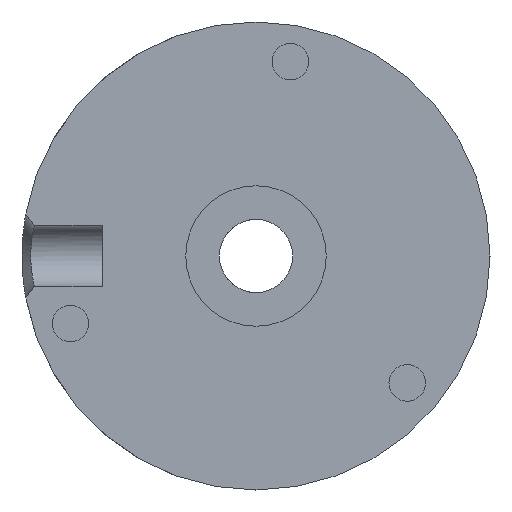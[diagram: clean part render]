
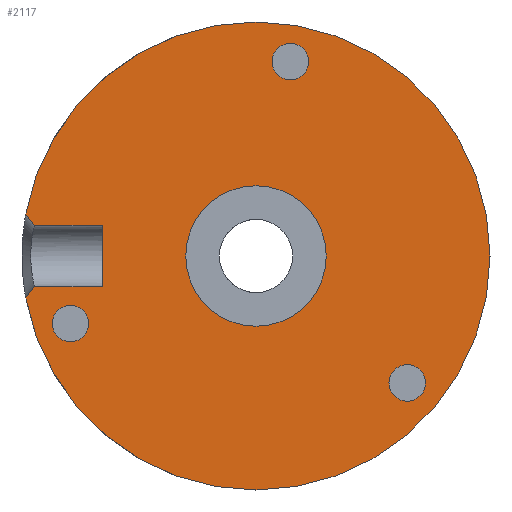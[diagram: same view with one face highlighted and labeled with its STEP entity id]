
A CAD part, left-side view. The second image highlights one B-rep face of the part: STEP entity #2117.
In plain terms, the highlighted planar face has unit normal (-1, 0, 0).
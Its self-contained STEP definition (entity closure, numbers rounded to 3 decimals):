
#13 = AXIS2_PLACEMENT_3D ( 'NONE', #1027, #643, #2388 ) ;
#24 = ORIENTED_EDGE ( 'NONE', *, *, #43, .T. ) ;
#29 = CIRCLE ( 'NONE', #13, 1.25 ) ;
#43 = EDGE_CURVE ( 'NONE', #803, #1495, #1074, .T. ) ;
#57 = CIRCLE ( 'NONE', #1278, 1.25 ) ;
#64 = DIRECTION ( 'NONE',  ( 0., 0., 1. ) ) ;
#71 = DIRECTION ( 'NONE',  ( 0., 0.608, -0.794 ) ) ;
#74 = CARTESIAN_POINT ( 'NONE',  ( 0., 0., -16. ) ) ;
#109 = DIRECTION ( 'NONE',  ( 0., 0., 1. ) ) ;
#122 = VERTEX_POINT ( 'NONE', #2407 ) ;
#132 = EDGE_CURVE ( 'NONE', #313, #1316, #2228, .T. ) ;
#142 = EDGE_CURVE ( 'NONE', #2142, #2030, #1835, .T. ) ;
#146 = AXIS2_PLACEMENT_3D ( 'NONE', #1267, #1298, #1366 ) ;
#149 = DIRECTION ( 'NONE',  ( -1., 0., 0. ) ) ;
#151 = VECTOR ( 'NONE', #1590, 1000. ) ;
#194 = EDGE_CURVE ( 'NONE', #2030, #2142, #2445, .T. ) ;
#214 = DIRECTION ( 'NONE',  ( 0., 0., 1. ) ) ;
#219 = VECTOR ( 'NONE', #232, 1000. ) ;
#220 = ORIENTED_EDGE ( 'NONE', *, *, #2462, .F. ) ;
#232 = DIRECTION ( 'NONE',  ( 0., 1., 0. ) ) ;
#263 = CARTESIAN_POINT ( 'NONE',  ( 0., -10.342, -8.678 ) ) ;
#266 = CARTESIAN_POINT ( 'NONE',  ( 0., 0., 4.8 ) ) ;
#279 = DIRECTION ( 'NONE',  ( 0., 0., 1. ) ) ;
#281 = DIRECTION ( 'NONE',  ( 0., 0., 1. ) ) ;
#313 = VERTEX_POINT ( 'NONE', #2363 ) ;
#321 = ORIENTED_EDGE ( 'NONE', *, *, #142, .F. ) ;
#342 = VERTEX_POINT ( 'NONE', #74 ) ;
#349 = AXIS2_PLACEMENT_3D ( 'NONE', #1221, #1598, #109 ) ;
#354 = EDGE_CURVE ( 'NONE', #1878, #997, #639, .T. ) ;
#361 = AXIS2_PLACEMENT_3D ( 'NONE', #446, #1435, #281 ) ;
#367 = CARTESIAN_POINT ( 'NONE',  ( 0., -10.342, -8.678 ) ) ;
#406 = CARTESIAN_POINT ( 'NONE',  ( 0., 12.686, -4.617 ) ) ;
#419 = VERTEX_POINT ( 'NONE', #2509 ) ;
#436 = VERTEX_POINT ( 'NONE', #1408 ) ;
#446 = CARTESIAN_POINT ( 'NONE',  ( 0., 0., 0. ) ) ;
#458 = AXIS2_PLACEMENT_3D ( 'NONE', #263, #1415, #64 ) ;
#482 = DIRECTION ( 'NONE',  ( 0., 0., 1. ) ) ;
#485 = LINE ( 'NONE', #659, #2470 ) ;
#510 = FACE_BOUND ( 'NONE', #1347, .T. ) ;
#548 = DIRECTION ( 'NONE',  ( 0., 0., 1. ) ) ;
#554 = EDGE_LOOP ( 'NONE', ( #2186, #1399 ) ) ;
#564 = FACE_BOUND ( 'NONE', #809, .T. ) ;
#620 = VERTEX_POINT ( 'NONE', #2447 ) ;
#639 = CIRCLE ( 'NONE', #1510, 1.25 ) ;
#643 = DIRECTION ( 'NONE',  ( -1., 0., 0. ) ) ;
#659 = CARTESIAN_POINT ( 'NONE',  ( 0., 10.5, 2.1 ) ) ;
#670 = EDGE_LOOP ( 'NONE', ( #2250, #2499 ) ) ;
#696 = CARTESIAN_POINT ( 'NONE',  ( 0., 0., 0. ) ) ;
#721 = AXIS2_PLACEMENT_3D ( 'NONE', #1607, #149, #1303 ) ;
#727 = EDGE_CURVE ( 'NONE', #2476, #122, #57, .T. ) ;
#736 = DIRECTION ( 'NONE',  ( 0., 0., 1. ) ) ;
#765 = VECTOR ( 'NONE', #1312, 1000. ) ;
#768 = FACE_BOUND ( 'NONE', #554, .T. ) ;
#773 = CIRCLE ( 'NONE', #1974, 16. ) ;
#782 = CARTESIAN_POINT ( 'NONE',  ( 0., 0., 16. ) ) ;
#803 = VERTEX_POINT ( 'NONE', #2373 ) ;
#808 = EDGE_CURVE ( 'NONE', #419, #1495, #1107, .T. ) ;
#809 = EDGE_LOOP ( 'NONE', ( #321, #1426 ) ) ;
#827 = VERTEX_POINT ( 'NONE', #853 ) ;
#843 = PLANE ( 'NONE',  #1134 ) ;
#853 = CARTESIAN_POINT ( 'NONE',  ( 0., 12.686, -3.367 ) ) ;
#917 = CIRCLE ( 'NONE', #458, 1.25 ) ;
#970 = DIRECTION ( 'NONE',  ( -1., 0., 0. ) ) ;
#996 = CARTESIAN_POINT ( 'NONE',  ( 0., 10.5, 2.1 ) ) ;
#997 = VERTEX_POINT ( 'NONE', #2047 ) ;
#1027 = CARTESIAN_POINT ( 'NONE',  ( 0., -2.344, 13.295 ) ) ;
#1040 = EDGE_CURVE ( 'NONE', #122, #2476, #917, .T. ) ;
#1074 = LINE ( 'NONE', #1184, #765 ) ;
#1085 = FACE_BOUND ( 'NONE', #670, .T. ) ;
#1100 = CARTESIAN_POINT ( 'NONE',  ( 0., 15.149, -2.1 ) ) ;
#1107 = LINE ( 'NONE', #996, #151 ) ;
#1132 = CIRCLE ( 'NONE', #146, 16. ) ;
#1134 = AXIS2_PLACEMENT_3D ( 'NONE', #1628, #2020, #279 ) ;
#1156 = CARTESIAN_POINT ( 'NONE',  ( 0., 12.686, -4.617 ) ) ;
#1184 = CARTESIAN_POINT ( 'NONE',  ( 0., 6.756, -8.854 ) ) ;
#1197 = EDGE_LOOP ( 'NONE', ( #1596, #1834, #2189, #24, #1237, #1609, #2105, #1944 ) ) ;
#1221 = CARTESIAN_POINT ( 'NONE',  ( 0., 0., 0. ) ) ;
#1229 = CARTESIAN_POINT ( 'NONE',  ( 0., 6.756, 8.854 ) ) ;
#1237 = ORIENTED_EDGE ( 'NONE', *, *, #808, .F. ) ;
#1267 = CARTESIAN_POINT ( 'NONE',  ( 0., 0., 0. ) ) ;
#1278 = AXIS2_PLACEMENT_3D ( 'NONE', #367, #1723, #548 ) ;
#1298 = DIRECTION ( 'NONE',  ( -1., 0., 0. ) ) ;
#1303 = DIRECTION ( 'NONE',  ( 0., 0., 1. ) ) ;
#1312 = DIRECTION ( 'NONE',  ( 0., -0.608, -0.794 ) ) ;
#1316 = VERTEX_POINT ( 'NONE', #1100 ) ;
#1347 = EDGE_LOOP ( 'NONE', ( #2517, #220 ) ) ;
#1349 = EDGE_CURVE ( 'NONE', #620, #342, #773, .T. ) ;
#1366 = DIRECTION ( 'NONE',  ( 0., 0., 1. ) ) ;
#1399 = ORIENTED_EDGE ( 'NONE', *, *, #2178, .F. ) ;
#1408 = CARTESIAN_POINT ( 'NONE',  ( 0., 12.686, -5.867 ) ) ;
#1415 = DIRECTION ( 'NONE',  ( -1., 0., 0. ) ) ;
#1426 = ORIENTED_EDGE ( 'NONE', *, *, #194, .F. ) ;
#1435 = DIRECTION ( 'NONE',  ( -1., 0., 0. ) ) ;
#1443 = DIRECTION ( 'NONE',  ( -1., 0., 0. ) ) ;
#1495 = VERTEX_POINT ( 'NONE', #1848 ) ;
#1510 = AXIS2_PLACEMENT_3D ( 'NONE', #2242, #2264, #2130 ) ;
#1521 = EDGE_CURVE ( 'NONE', #342, #2277, #2311, .T. ) ;
#1532 = CIRCLE ( 'NONE', #2290, 1.25 ) ;
#1590 = DIRECTION ( 'NONE',  ( 0., 1., 0. ) ) ;
#1596 = ORIENTED_EDGE ( 'NONE', *, *, #1349, .T. ) ;
#1598 = DIRECTION ( 'NONE',  ( -1., 0., 0. ) ) ;
#1607 = CARTESIAN_POINT ( 'NONE',  ( 0., 0., 0. ) ) ;
#1609 = ORIENTED_EDGE ( 'NONE', *, *, #1743, .F. ) ;
#1628 = CARTESIAN_POINT ( 'NONE',  ( 0., -4.8, 0. ) ) ;
#1675 = CIRCLE ( 'NONE', #1934, 1.25 ) ;
#1694 = EDGE_CURVE ( 'NONE', #1316, #620, #2255, .T. ) ;
#1723 = DIRECTION ( 'NONE',  ( -1., 0., 0. ) ) ;
#1743 = EDGE_CURVE ( 'NONE', #313, #419, #485, .T. ) ;
#1834 = ORIENTED_EDGE ( 'NONE', *, *, #1521, .T. ) ;
#1835 = CIRCLE ( 'NONE', #349, 4.8 ) ;
#1840 = EDGE_CURVE ( 'NONE', #827, #436, #1532, .T. ) ;
#1848 = CARTESIAN_POINT ( 'NONE',  ( 0., 15.149, 2.1 ) ) ;
#1878 = VERTEX_POINT ( 'NONE', #2507 ) ;
#1926 = DIRECTION ( 'NONE',  ( -1., 0., 0. ) ) ;
#1934 = AXIS2_PLACEMENT_3D ( 'NONE', #406, #970, #214 ) ;
#1944 = ORIENTED_EDGE ( 'NONE', *, *, #1694, .T. ) ;
#1955 = CARTESIAN_POINT ( 'NONE',  ( 0., 10.5, -2.1 ) ) ;
#1974 = AXIS2_PLACEMENT_3D ( 'NONE', #696, #1443, #2042 ) ;
#1997 = CARTESIAN_POINT ( 'NONE',  ( 0., -10.342, -9.928 ) ) ;
#2020 = DIRECTION ( 'NONE',  ( -1., 0., 0. ) ) ;
#2030 = VERTEX_POINT ( 'NONE', #2119 ) ;
#2034 = VECTOR ( 'NONE', #71, 1000. ) ;
#2042 = DIRECTION ( 'NONE',  ( 0., 0., 1. ) ) ;
#2047 = CARTESIAN_POINT ( 'NONE',  ( 0., -2.344, 12.045 ) ) ;
#2105 = ORIENTED_EDGE ( 'NONE', *, *, #132, .T. ) ;
#2117 = ADVANCED_FACE ( 'NONE', ( #1085, #768, #510, #2526, #564 ), #843, .T. ) ;
#2119 = CARTESIAN_POINT ( 'NONE',  ( 0., 0., -4.8 ) ) ;
#2130 = DIRECTION ( 'NONE',  ( 0., 0., 1. ) ) ;
#2142 = VERTEX_POINT ( 'NONE', #266 ) ;
#2178 = EDGE_CURVE ( 'NONE', #436, #827, #1675, .T. ) ;
#2186 = ORIENTED_EDGE ( 'NONE', *, *, #1840, .F. ) ;
#2189 = ORIENTED_EDGE ( 'NONE', *, *, #2506, .T. ) ;
#2228 = LINE ( 'NONE', #1955, #219 ) ;
#2242 = CARTESIAN_POINT ( 'NONE',  ( 0., -2.344, 13.295 ) ) ;
#2250 = ORIENTED_EDGE ( 'NONE', *, *, #1040, .F. ) ;
#2255 = LINE ( 'NONE', #1229, #2034 ) ;
#2264 = DIRECTION ( 'NONE',  ( -1., 0., 0. ) ) ;
#2277 = VERTEX_POINT ( 'NONE', #782 ) ;
#2290 = AXIS2_PLACEMENT_3D ( 'NONE', #1156, #1926, #736 ) ;
#2311 = CIRCLE ( 'NONE', #361, 16. ) ;
#2363 = CARTESIAN_POINT ( 'NONE',  ( 0., 10.5, -2.1 ) ) ;
#2373 = CARTESIAN_POINT ( 'NONE',  ( 0., 15.74, 2.872 ) ) ;
#2388 = DIRECTION ( 'NONE',  ( 0., 0., 1. ) ) ;
#2407 = CARTESIAN_POINT ( 'NONE',  ( 0., -10.342, -7.428 ) ) ;
#2445 = CIRCLE ( 'NONE', #721, 4.8 ) ;
#2447 = CARTESIAN_POINT ( 'NONE',  ( 0., 15.74, -2.872 ) ) ;
#2462 = EDGE_CURVE ( 'NONE', #997, #1878, #29, .T. ) ;
#2470 = VECTOR ( 'NONE', #482, 1000. ) ;
#2476 = VERTEX_POINT ( 'NONE', #1997 ) ;
#2499 = ORIENTED_EDGE ( 'NONE', *, *, #727, .F. ) ;
#2506 = EDGE_CURVE ( 'NONE', #2277, #803, #1132, .T. ) ;
#2507 = CARTESIAN_POINT ( 'NONE',  ( 0., -2.344, 14.545 ) ) ;
#2509 = CARTESIAN_POINT ( 'NONE',  ( 0., 10.5, 2.1 ) ) ;
#2517 = ORIENTED_EDGE ( 'NONE', *, *, #354, .F. ) ;
#2526 = FACE_OUTER_BOUND ( 'NONE', #1197, .T. ) ;
